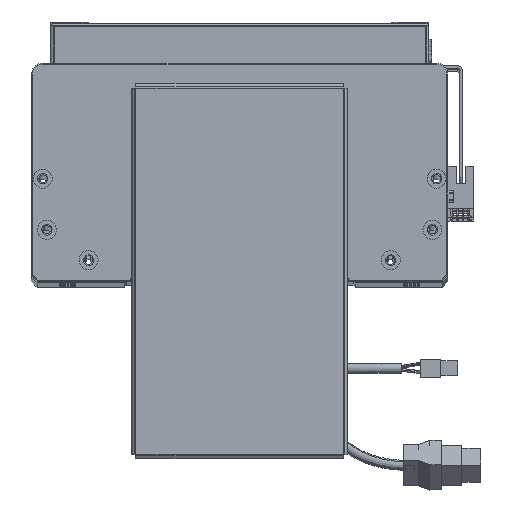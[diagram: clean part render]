
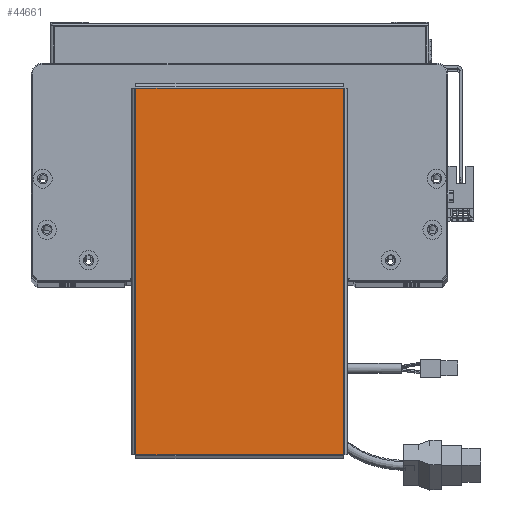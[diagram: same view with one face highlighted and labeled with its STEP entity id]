
A CAD part, top view. The second image highlights one B-rep face of the part: STEP entity #44661.
In plain terms, the highlighted planar face has unit normal (0, 0, 1).
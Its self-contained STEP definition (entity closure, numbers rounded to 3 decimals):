
#1227 = EDGE_CURVE ( 'NONE', #14668, #57213, #18620, .T. ) ;
#3251 = FACE_OUTER_BOUND ( 'NONE', #20119, .T. ) ;
#3355 = DIRECTION ( 'NONE',  ( 0., 0., 1. ) ) ;
#3512 = CARTESIAN_POINT ( 'NONE',  ( -96.763, 54.793, 0. ) ) ;
#5456 = VECTOR ( 'NONE', #15299, 1000. ) ;
#7724 = EDGE_CURVE ( 'NONE', #33459, #14668, #17805, .T. ) ;
#9909 = ORIENTED_EDGE ( 'NONE', *, *, #44478, .T. ) ;
#10441 = LINE ( 'NONE', #31800, #5456 ) ;
#10806 = AXIS2_PLACEMENT_3D ( 'NONE', #29827, #3355, #23838 ) ;
#11734 = CARTESIAN_POINT ( 'NONE',  ( -96.763, -54.763, 0. ) ) ;
#14668 = VERTEX_POINT ( 'NONE', #11734 ) ;
#15299 = DIRECTION ( 'NONE',  ( -1., 0., 0. ) ) ;
#17805 = LINE ( 'NONE', #3512, #65356 ) ;
#18452 = DIRECTION ( 'NONE',  ( 0., 1., 0. ) ) ;
#18620 = LINE ( 'NONE', #45130, #58824 ) ;
#20119 = EDGE_LOOP ( 'NONE', ( #32609, #9909, #57552, #53961 ) ) ;
#21890 = CARTESIAN_POINT ( 'NONE',  ( 96.763, -54.763, 0. ) ) ;
#23164 = DIRECTION ( 'NONE',  ( 1., 0., 0. ) ) ;
#23838 = DIRECTION ( 'NONE',  ( 1., 0., 0. ) ) ;
#23933 = CARTESIAN_POINT ( 'NONE',  ( 96.763, 54.763, 0. ) ) ;
#24510 = PLANE ( 'NONE',  #10806 ) ;
#29827 = CARTESIAN_POINT ( 'NONE',  ( 0., 0., 0. ) ) ;
#31800 = CARTESIAN_POINT ( 'NONE',  ( 96.793, 54.763, 0. ) ) ;
#32609 = ORIENTED_EDGE ( 'NONE', *, *, #1227, .T. ) ;
#33459 = VERTEX_POINT ( 'NONE', #66701 ) ;
#39656 = EDGE_CURVE ( 'NONE', #57846, #33459, #10441, .T. ) ;
#43888 = CARTESIAN_POINT ( 'NONE',  ( 96.763, -54.793, 0. ) ) ;
#44478 = EDGE_CURVE ( 'NONE', #57213, #57846, #61586, .T. ) ;
#44661 = ADVANCED_FACE ( 'NONE', ( #3251 ), #24510, .T. ) ;
#45130 = CARTESIAN_POINT ( 'NONE',  ( -96.793, -54.763, 0. ) ) ;
#53961 = ORIENTED_EDGE ( 'NONE', *, *, #7724, .T. ) ;
#54179 = VECTOR ( 'NONE', #18452, 1000. ) ;
#57213 = VERTEX_POINT ( 'NONE', #21890 ) ;
#57552 = ORIENTED_EDGE ( 'NONE', *, *, #39656, .T. ) ;
#57846 = VERTEX_POINT ( 'NONE', #23933 ) ;
#58824 = VECTOR ( 'NONE', #23164, 1000. ) ;
#60936 = DIRECTION ( 'NONE',  ( 0., -1., 0. ) ) ;
#61586 = LINE ( 'NONE', #43888, #54179 ) ;
#65356 = VECTOR ( 'NONE', #60936, 1000. ) ;
#66701 = CARTESIAN_POINT ( 'NONE',  ( -96.763, 54.763, 0. ) ) ;
